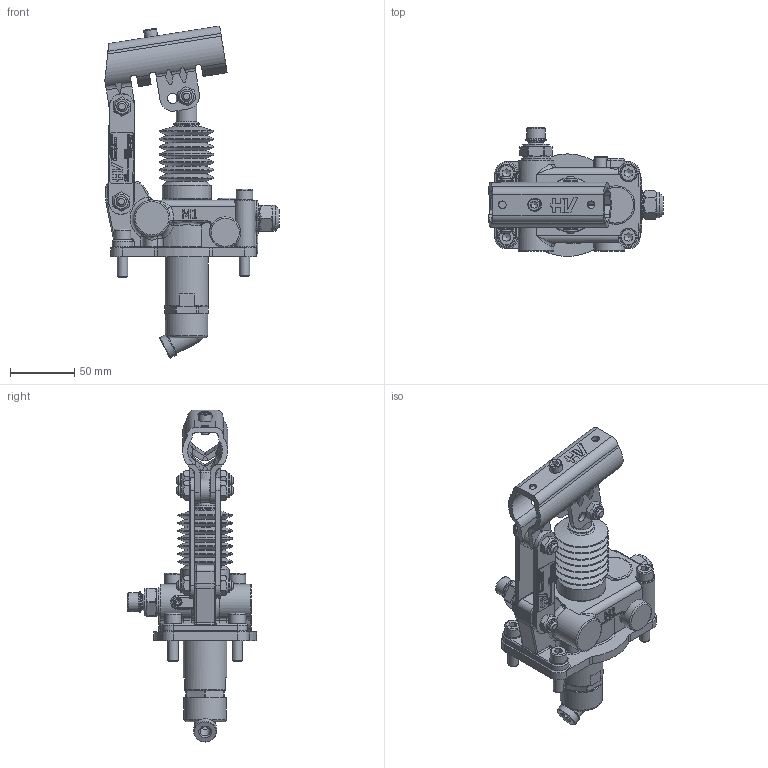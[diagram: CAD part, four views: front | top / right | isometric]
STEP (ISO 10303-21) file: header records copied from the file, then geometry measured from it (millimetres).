
FILE_DESCRIPTION((''),'2;1');
FILE_NAME('G:\HV_HYDRAULIC\AZIENDA_HV_HYDRAULIC\ARCHIVIO_DISEGNI\5_PRODOTTI_FINITI\1_POMPE_MANUALI\6067_PMSE_20\6067.0040_PMSE_20_byC-e-s_(HV)\6067.0040.stp','2024-03-26T07:12:11',('christian.scardovi'),(''),'Autodesk Inventor 2013','Autodesk Inventor 2013','');
FILE_SCHEMA(('AUTOMOTIVE_DESIGN { 1 0 10303 214 1 1 1 1 }'));
Length unit declared in the file: millimetre
Products named in the file (1): 6067.0040
Bounding box: 135.7 x 100.5 x 258.56 mm (x, y, z)
Volume: 455201.3 mm3; surface area: 115378.2 mm2
Topology: 3 solids, 3 shells, 1443 faces, 3653 edges, 2312 vertices
Faces by surface type: plane 728, cylinder 291, bspline 183, cone 137, torus 91, sphere 13
Full cylindrical faces by diameter (mm): 4.917 x6, 5 x5, 6 x5, 6.5 x1, 8 x15, 9 x2, 9.2 x1, 10 x2, 11.05 x6, 12 x4, 13 x4, 13.2 x1, 13.5 x1, 14 x4, 14.5 x1, 14.95 x2, 16 x1, 16.5 x1, 16.6 x2, 17 x1, 18 x3, 20 x4, 21 x2, 22 x2, 22.3 x1, 23 x3, 24 x1, 26.5 x1, 28 x2, 29 x1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
Entity records: 45333 total; most frequent: CARTESIAN_POINT 11668, ORIENTED_EDGE 6732, DIRECTION 6151, EDGE_CURVE 3366, VERTEX_POINT 2235, AXIS2_PLACEMENT_3D 2148, VECTOR 1855, LINE 1855
